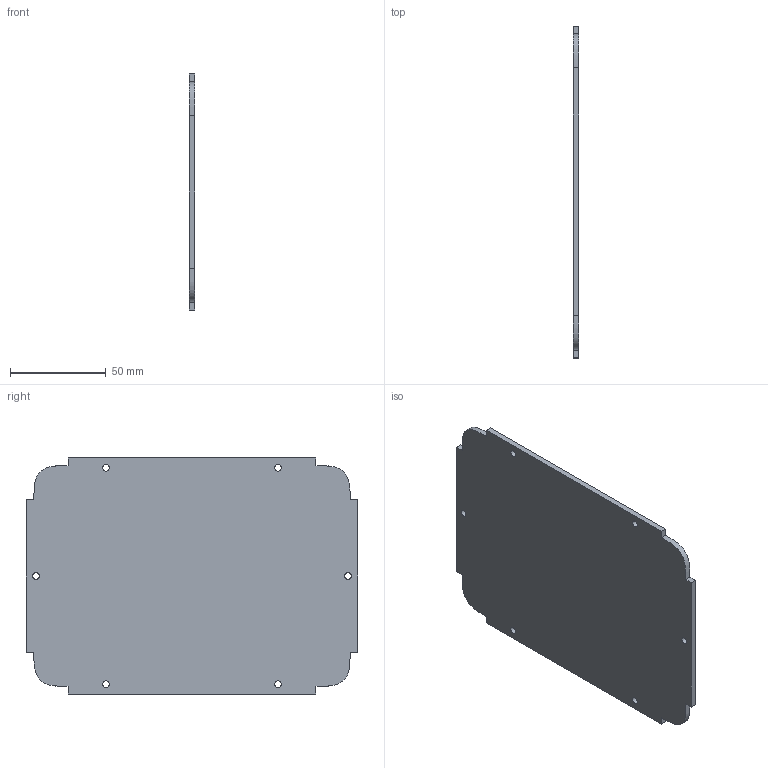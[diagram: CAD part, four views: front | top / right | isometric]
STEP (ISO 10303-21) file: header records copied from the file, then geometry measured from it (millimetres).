
FILE_DESCRIPTION(/* description */ (''),/* implementation_level */ '2;1');
FILE_NAME(/* name */ 'DOOR PANEL.step',/* time_stamp */ '2024-02-28T16:37:34Z',/* author */ (''),/* organization */ (''),/* preprocessor_version */ 'ST-DEVELOPER v20',/* originating_system */ 'Autodesk Translation Framework v12.20.1.177',/* authorisation */ '');
FILE_SCHEMA (('AUTOMOTIVE_DESIGN { 1 0 10303 214 3 1 1 }'));
Length unit declared in the file: millimetre
Products named in the file (1): DOOR PANEL
Bounding box: 3 x 173.4 x 123.4 mm (x, y, z)
Volume: 61726.4 mm3; surface area: 43073.4 mm2
Topology: 1 solids, 1 shells, 24 faces, 66 edges, 44 vertices
Faces by surface type: plane 14, cylinder 6, bspline 4
Full cylindrical faces by diameter (mm): 3.5 x6
Entity records: 1266 total; most frequent: CARTESIAN_POINT 619, ORIENTED_EDGE 132, DIRECTION 104, EDGE_CURVE 66, VERTEX_POINT 44, LINE 38, VECTOR 38, EDGE_LOOP 36
